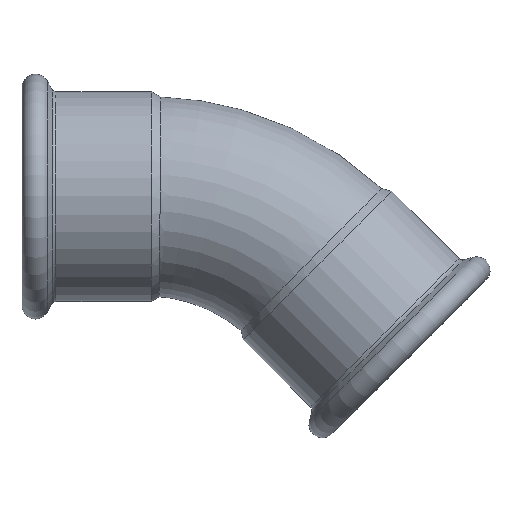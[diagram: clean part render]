
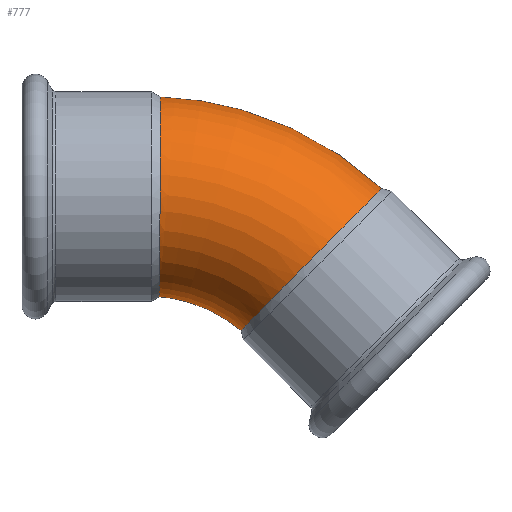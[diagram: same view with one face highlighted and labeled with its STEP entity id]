
A CAD part, top view. The second image highlights one B-rep face of the part: STEP entity #777.
In plain terms, the highlighted toroidal (fillet/blend) face has major radius 108 mm and minor radius 44.45 mm.
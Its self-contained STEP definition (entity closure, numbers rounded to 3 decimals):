
#684=CARTESIAN_POINT('',(0.0,-108.,0.0));
#685=DIRECTION('',(0.0,0.0,1.0));
#686=DIRECTION('',(0.937,-0.35,0.0));
#687=AXIS2_PLACEMENT_3D('',#684,#685,#686);
#688=TOROIDAL_SURFACE('',#687,108.0,44.45);
#689=CARTESIAN_POINT('',(5.422,44.354,0.));
#690=VERTEX_POINT('',#689);
#691=CARTESIAN_POINT('',(5.422,44.354,0.));
#692=CARTESIAN_POINT('',(5.422,44.354,-5.76));
#693=CARTESIAN_POINT('',(5.419,43.233,-11.466));
#694=CARTESIAN_POINT('',(5.406,38.914,-22.041));
#695=CARTESIAN_POINT('',(5.396,35.791,-26.826));
#696=CARTESIAN_POINT('',(5.371,27.985,-34.894));
#697=CARTESIAN_POINT('',(5.355,23.401,-38.132));
#698=CARTESIAN_POINT('',(5.316,13.35,-42.714));
#699=CARTESIAN_POINT('',(5.294,7.984,-44.047));
#700=CARTESIAN_POINT('',(5.241,-2.946,-44.696));
#701=CARTESIAN_POINT('',(5.212,-8.416,-44.012));
#702=CARTESIAN_POINT('',(5.147,-18.958,-40.66));
#703=CARTESIAN_POINT('',(5.112,-23.925,-37.974));
#704=CARTESIAN_POINT('',(5.041,-32.822,-30.726));
#705=CARTESIAN_POINT('',(5.007,-36.6,-26.146));
#706=CARTESIAN_POINT('',(4.957,-41.645,-16.731));
#707=CARTESIAN_POINT('',(4.94,-43.212,-12.158));
#708=CARTESIAN_POINT('',(4.926,-44.474,-4.724));
#709=CARTESIAN_POINT('',(4.923,-44.681,-1.987));
#710=CARTESIAN_POINT('',(4.924,-44.586,3.632));
#711=CARTESIAN_POINT('',(4.928,-44.256,6.501));
#712=CARTESIAN_POINT('',(4.948,-42.413,15.083));
#713=CARTESIAN_POINT('',(4.974,-40.037,20.544));
#714=CARTESIAN_POINT('',(5.035,-33.501,29.924));
#715=CARTESIAN_POINT('',(5.069,-29.516,33.835));
#716=CARTESIAN_POINT('',(5.14,-20.02,40.195));
#717=CARTESIAN_POINT('',(5.176,-14.519,42.471));
#718=CARTESIAN_POINT('',(5.241,-2.969,44.746));
#719=CARTESIAN_POINT('',(5.27,2.967,44.73));
#720=CARTESIAN_POINT('',(5.321,14.489,42.391));
#721=CARTESIAN_POINT('',(5.342,19.962,40.092));
#722=CARTESIAN_POINT('',(5.377,29.701,33.496));
#723=CARTESIAN_POINT('',(5.39,33.869,29.263));
#724=CARTESIAN_POINT('',(5.407,39.42,20.787));
#725=CARTESIAN_POINT('',(5.413,41.226,16.916));
#726=CARTESIAN_POINT('',(5.42,43.714,8.682));
#727=CARTESIAN_POINT('',(5.422,44.354,4.353));
#728=CARTESIAN_POINT('',(5.422,44.354,0.));
#729=B_SPLINE_CURVE_WITH_KNOTS('',3,(#691,#692,#693,#694,#695,#696,#697,#698,#699,#700,#701,#702,#703,#704,#705,#706,#707,#708,#709,#710,#711,#712,#713,#714,#715,#716,#717,#718,#719,#720,#721,#722,#723,#724,#725,#726,#727,#728),.UNSPECIFIED.,.T.,.U.,(4,2,2,2,2,2,2,2,2,2,2,2,2,2,2,2,2,2,4),(0.0,1.728,3.427,5.096,6.741,8.38,10.059,11.823,13.264,14.085,14.95,16.719,18.38,20.148,21.911,23.675,25.44,26.714,28.02),.UNSPECIFIED.);
#730=EDGE_CURVE('',#690,#690,#729,.T.);
#731=ORIENTED_EDGE('',*,*,#730,.F.);
#732=EDGE_LOOP('',(#731));
#733=FACE_OUTER_BOUND('',#732,.T.);
#734=CARTESIAN_POINT('',(103.897,3.564,0.));
#735=VERTEX_POINT('',#734);
#736=CARTESIAN_POINT('',(103.897,3.564,0.));
#737=CARTESIAN_POINT('',(103.897,3.564,5.785));
#738=CARTESIAN_POINT('',(103.1,2.763,11.514));
#739=CARTESIAN_POINT('',(100.004,-0.351,22.215));
#740=CARTESIAN_POINT('',(97.735,-2.634,27.086));
#741=CARTESIAN_POINT('',(92.011,-8.396,35.321));
#742=CARTESIAN_POINT('',(88.611,-11.82,38.606));
#743=CARTESIAN_POINT('',(81.12,-19.37,43.146));
#744=CARTESIAN_POINT('',(77.099,-23.425,44.358));
#745=CARTESIAN_POINT('',(68.963,-31.642,44.532));
#746=CARTESIAN_POINT('',(64.924,-35.727,43.491));
#747=CARTESIAN_POINT('',(57.351,-43.397,39.27));
#748=CARTESIAN_POINT('',(53.891,-46.909,36.126));
#749=CARTESIAN_POINT('',(48.006,-52.893,28.114));
#750=CARTESIAN_POINT('',(45.64,-55.305,23.316));
#751=CARTESIAN_POINT('',(42.34,-58.673,12.691));
#752=CARTESIAN_POINT('',(41.436,-59.598,6.967));
#753=CARTESIAN_POINT('',(41.225,-59.814,-4.609));
#754=CARTESIAN_POINT('',(41.907,-59.116,-10.348));
#755=CARTESIAN_POINT('',(44.767,-56.195,-21.121));
#756=CARTESIAN_POINT('',(46.915,-54.004,-26.054));
#757=CARTESIAN_POINT('',(52.431,-48.392,-34.504));
#758=CARTESIAN_POINT('',(55.755,-45.016,-37.932));
#759=CARTESIAN_POINT('',(63.159,-37.512,-42.792));
#760=CARTESIAN_POINT('',(67.172,-33.452,-44.17));
#761=CARTESIAN_POINT('',(75.347,-25.193,-44.653));
#762=CARTESIAN_POINT('',(79.431,-21.073,-43.755));
#763=CARTESIAN_POINT('',(87.12,-13.322,-39.781));
#764=CARTESIAN_POINT('',(90.652,-9.764,-36.749));
#765=CARTESIAN_POINT('',(96.692,-3.683,-28.934));
#766=CARTESIAN_POINT('',(99.144,-1.217,-24.231));
#767=CARTESIAN_POINT('',(101.877,1.532,-16.033));
#768=CARTESIAN_POINT('',(102.63,2.29,-12.928));
#769=CARTESIAN_POINT('',(103.641,3.307,-6.539));
#770=CARTESIAN_POINT('',(103.897,3.564,-3.274));
#771=CARTESIAN_POINT('',(103.897,3.564,0.));
#772=B_SPLINE_CURVE_WITH_KNOTS('',3,(#736,#737,#738,#739,#740,#741,#742,#743,#744,#745,#746,#747,#748,#749,#750,#751,#752,#753,#754,#755,#756,#757,#758,#759,#760,#761,#762,#763,#764,#765,#766,#767,#768,#769,#770,#771),.UNSPECIFIED.,.T.,.U.,(4,2,2,2,2,2,2,2,2,2,2,2,2,2,2,2,2,4),(0.0,1.735,3.47,5.205,6.94,8.675,10.412,12.156,13.899,15.63,17.356,19.094,20.839,22.583,24.324,26.062,27.044,28.027),.UNSPECIFIED.);
#773=EDGE_CURVE('',#735,#735,#772,.T.);
#774=ORIENTED_EDGE('',*,*,#773,.F.);
#775=EDGE_LOOP('',(#774));
#776=FACE_BOUND('',#775,.T.);
#777=ADVANCED_FACE('',(#733,#776),#688,.T.);
